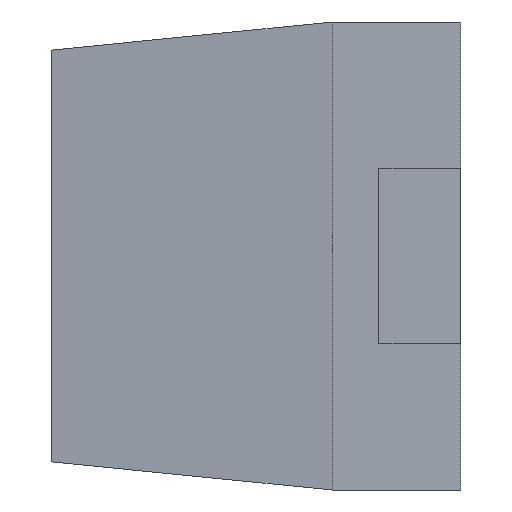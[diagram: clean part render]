
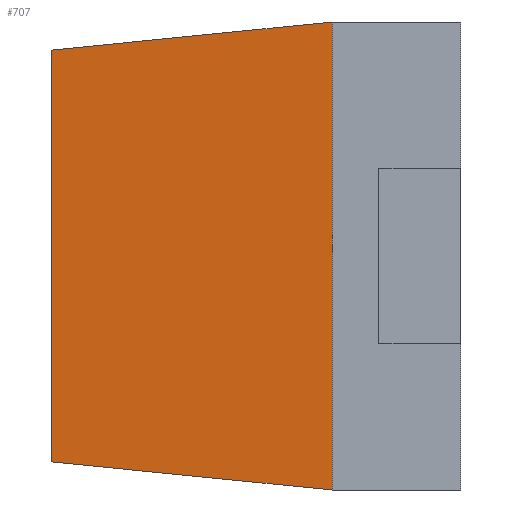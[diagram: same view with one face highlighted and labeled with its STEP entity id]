
A CAD part, left-side view. The second image highlights one B-rep face of the part: STEP entity #707.
In plain terms, the highlighted planar face has unit normal (-0.996, 0.087, 0).
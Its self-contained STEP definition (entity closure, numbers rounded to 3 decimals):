
#425 = CARTESIAN_POINT ( 'NONE',  ( -0.552, 0.699, -0.352 ) ) ;
#426 = VERTEX_POINT ( 'NONE', #425 ) ;
#478 = CARTESIAN_POINT ( 'NONE',  ( -0.552, 0.699, 0.352 ) ) ;
#479 = VERTEX_POINT ( 'NONE', #478 ) ;
#502 = CARTESIAN_POINT ( 'NONE',  ( -0.552, 0.699, 0.4 ) ) ;
#503 = DIRECTION ( 'NONE',  ( 0., 0., 1. ) ) ;
#504 = VECTOR ( 'NONE', #503, 1000. ) ;
#505 = LINE ( 'NONE', #502, #504 ) ;
#506 = EDGE_CURVE ( 'NONE', #426, #479, #505, .T. ) ;
#550 = CARTESIAN_POINT ( 'NONE',  ( -0.6, 0.22, 0.4 ) ) ;
#551 = VERTEX_POINT ( 'NONE', #550 ) ;
#560 = CARTESIAN_POINT ( 'NONE',  ( -0.6, 0.22, -0.4 ) ) ;
#561 = VERTEX_POINT ( 'NONE', #560 ) ;
#562 = CARTESIAN_POINT ( 'NONE',  ( -0.6, 0.22, 0.4 ) ) ;
#563 = DIRECTION ( 'NONE',  ( 0., 0., -1. ) ) ;
#564 = VECTOR ( 'NONE', #563, 1000. ) ;
#565 = LINE ( 'NONE', #562, #564 ) ;
#566 = EDGE_CURVE ( 'NONE', #551, #561, #565, .T. ) ;
#686 = CARTESIAN_POINT ( 'NONE',  ( -0.552, 0.695, -0.352 ) ) ;
#687 = DIRECTION ( 'NONE',  ( 0.087, 0.992, 0.087 ) ) ;
#688 = VECTOR ( 'NONE', #687, 1000. ) ;
#689 = LINE ( 'NONE', #686, #688 ) ;
#690 = EDGE_CURVE ( 'NONE', #561, #426, #689, .T. ) ;
#691 = ORIENTED_EDGE ( 'NONE', *, *, #690, .F. ) ;
#692 = ORIENTED_EDGE ( 'NONE', *, *, #566, .F. ) ;
#693 = CARTESIAN_POINT ( 'NONE',  ( -0.6, 0.22, 0.4 ) ) ;
#694 = DIRECTION ( 'NONE',  ( -0.087, -0.992, 0.087 ) ) ;
#695 = VECTOR ( 'NONE', #694, 1000. ) ;
#696 = LINE ( 'NONE', #693, #695 ) ;
#697 = EDGE_CURVE ( 'NONE', #479, #551, #696, .T. ) ;
#698 = ORIENTED_EDGE ( 'NONE', *, *, #697, .F. ) ;
#699 = ORIENTED_EDGE ( 'NONE', *, *, #506, .F. ) ;
#700 = EDGE_LOOP ( 'NONE', ( #691, #692, #698, #699 ) ) ;
#701 = FACE_OUTER_BOUND ( 'NONE', #700, .T. ) ;
#702 = CARTESIAN_POINT ( 'NONE',  ( -0.6, 0.22, 0.4 ) ) ;
#703 = DIRECTION ( 'NONE',  ( 0.996, -0.087, 0. ) ) ;
#704 = DIRECTION ( 'NONE',  ( 0.087, 0.996, 0. ) ) ;
#705 = AXIS2_PLACEMENT_3D ( 'NONE', #702, #703, #704 ) ;
#706 = PLANE ( 'NONE', #705 ) ;
#707 = ADVANCED_FACE ( 'NONE', ( #701 ), #706, .F. ) ;
